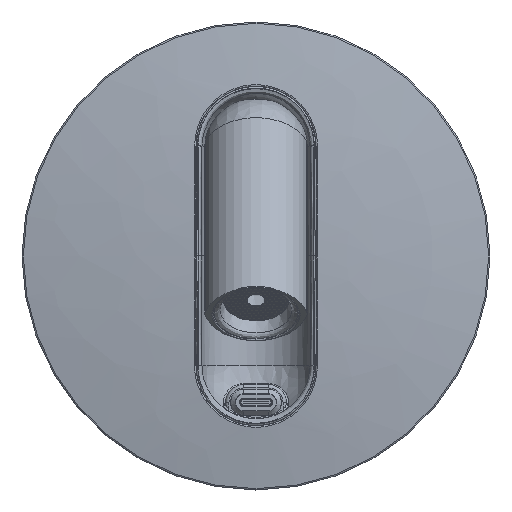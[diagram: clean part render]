
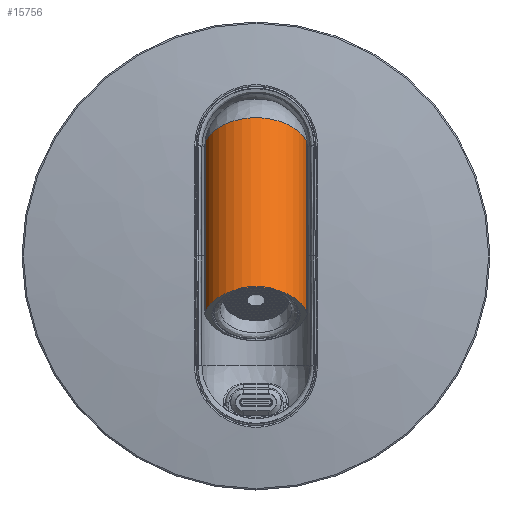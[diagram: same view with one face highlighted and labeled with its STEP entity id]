
A CAD part, top view. The second image highlights one B-rep face of the part: STEP entity #15756.
In plain terms, the highlighted cylindrical face has radius 16.25 mm (diameter 32.5 mm), a partial arc.
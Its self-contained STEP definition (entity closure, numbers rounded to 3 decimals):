
#1868=CIRCLE('',#17741,16.25);
#1870=CIRCLE('',#17744,16.25);
#2307=CYLINDRICAL_SURFACE('',#17743,16.25);
#3280=FACE_OUTER_BOUND('',#4487,.T.);
#4487=EDGE_LOOP('',(#14141,#14142,#14143,#14144));
#5324=LINE('',#38486,#6147);
#5325=LINE('',#38487,#6148);
#6147=VECTOR('',#22465,10.);
#6148=VECTOR('',#22466,10.);
#7540=VERTEX_POINT('',#38460);
#7541=VERTEX_POINT('',#38462);
#7543=VERTEX_POINT('',#38483);
#7544=VERTEX_POINT('',#38484);
#9764=EDGE_CURVE('',#7540,#7541,#1868,.T.);
#9767=EDGE_CURVE('',#7543,#7544,#1870,.T.);
#9768=EDGE_CURVE('',#7544,#7541,#5324,.T.);
#9769=EDGE_CURVE('',#7540,#7543,#5325,.T.);
#14141=ORIENTED_EDGE('',*,*,#9767,.T.);
#14142=ORIENTED_EDGE('',*,*,#9768,.T.);
#14143=ORIENTED_EDGE('',*,*,#9764,.F.);
#14144=ORIENTED_EDGE('',*,*,#9769,.T.);
#15756=ADVANCED_FACE('',(#3280),#2307,.T.);
#17741=AXIS2_PLACEMENT_3D('',#38463,#22457,#22458);
#17743=AXIS2_PLACEMENT_3D('',#38482,#22461,#22462);
#17744=AXIS2_PLACEMENT_3D('',#38485,#22463,#22464);
#22457=DIRECTION('center_axis',(0.,0.773,
-0.634));
#22458=DIRECTION('ref_axis',(0.,0.634,0.773));
#22461=DIRECTION('center_axis',(0.,-0.773,0.634));
#22462=DIRECTION('ref_axis',(0.,0.634,0.773));
#22463=DIRECTION('center_axis',(0.,0.773,
-0.634));
#22464=DIRECTION('ref_axis',(0.964,0.168,0.205));
#22465=DIRECTION('',(0.,0.773,-0.634));
#22466=DIRECTION('',(0.,-0.773,0.634));
#38460=CARTESIAN_POINT('',(584.332,35.263,5.47));
#38462=CARTESIAN_POINT('',(615.668,35.263,5.47));
#38463=CARTESIAN_POINT('Origin',(600.,32.528,2.137));
#38482=CARTESIAN_POINT('Origin',(600.,-27.773,51.612));
#38483=CARTESIAN_POINT('',(584.332,-17.387,48.668));
#38484=CARTESIAN_POINT('',(615.668,-17.387,48.668));
#38485=CARTESIAN_POINT('Origin',(600.,-20.122,45.335));
#38486=CARTESIAN_POINT('',(615.668,-17.387,48.668));
#38487=CARTESIAN_POINT('',(584.332,35.263,5.47));
